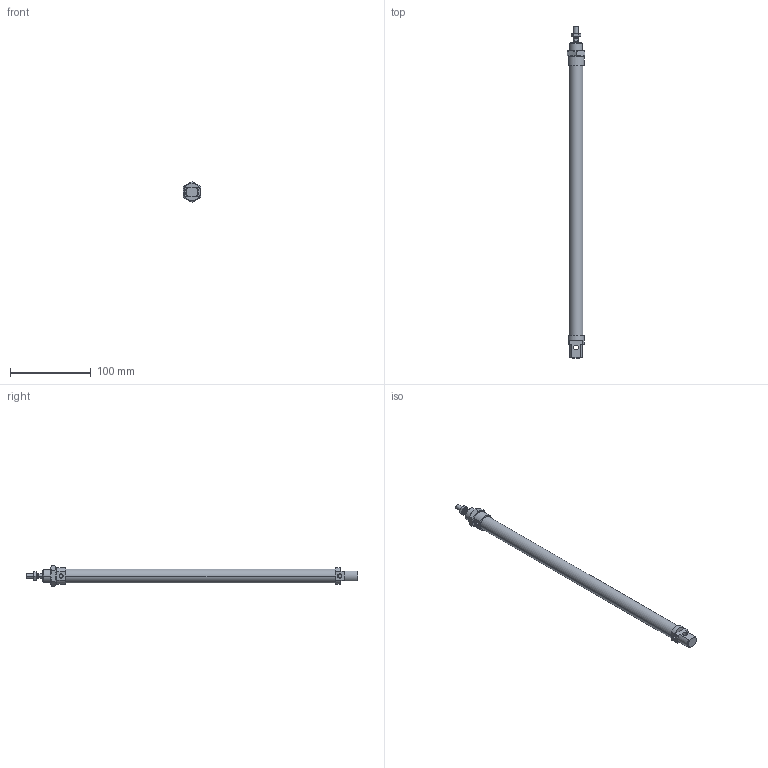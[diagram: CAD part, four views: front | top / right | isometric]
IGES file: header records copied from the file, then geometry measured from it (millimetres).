
Global section: file name: No Iges File Name specified; native system: Autodesk Inventor 2010; preprocessor: AutoDesk Inventor Iges Exporter R2010; author: rivolro1; date: 20090604.093239; units: millimetre
Bounding box: 22 x 411 x 25.4 mm (x, y, z)
Volume: 92566.6 mm3; surface area: 36567.2 mm2
Topology: 4 solids, 4 shells, 107 faces, 236 edges, 144 vertices
Faces by surface type: plane 39, cone 28, bspline 20, cylinder 14, revolution 6
